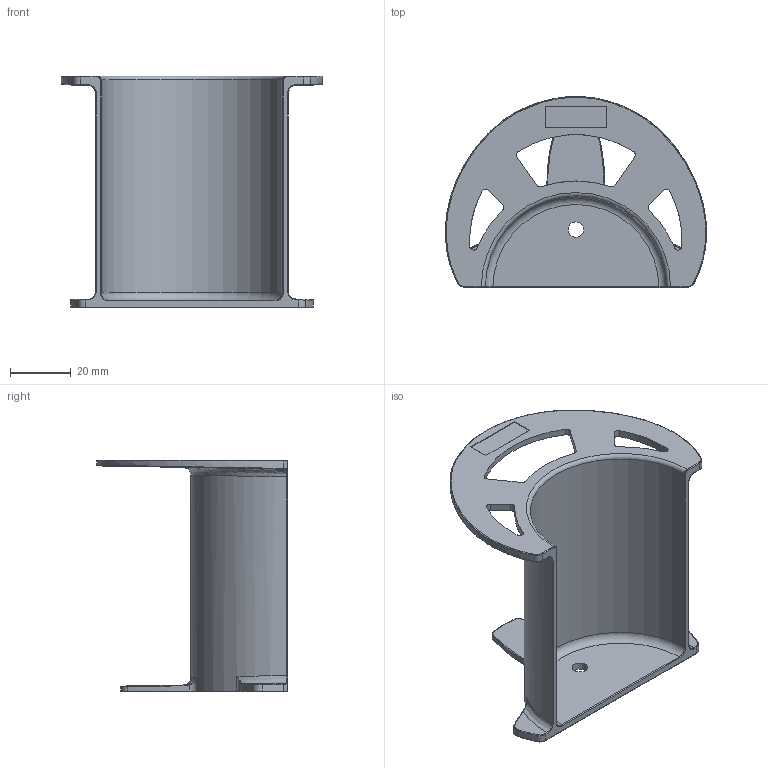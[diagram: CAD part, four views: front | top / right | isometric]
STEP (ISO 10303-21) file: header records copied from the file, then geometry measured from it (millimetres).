
FILE_DESCRIPTION((''),'2;1');
FILE_NAME('500-00629','2015-06-05T',('rrenderos'),('Middle Atlantic Products'),'PRO/ENGINEER BY PARAMETRIC TECHNOLOGY CORPORATION, 2014310','PRO/ENGINEER BY PARAMETRIC TECHNOLOGY CORPORATION, 2014310','');
FILE_SCHEMA(('CONFIG_CONTROL_DESIGN'));
Length unit declared in the file: inch
Products named in the file (1): 500-00629
Bounding box: 85.84 x 62.74 x 76.2 mm (x, y, z)
Volume: 24402.3 mm3; surface area: 24059.9 mm2
Topology: 1 solids, 1 shells, 138 faces, 331 edges, 196 vertices
Faces by surface type: cylinder 53, bspline 41, torus 25, plane 17, extrusion 2
Entity records: 6013 total; most frequent: CARTESIAN_POINT 3019, ORIENTED_EDGE 662, DIRECTION 565, EDGE_CURVE 331, AXIS2_PLACEMENT_3D 235, VERTEX_POINT 196, EDGE_LOOP 147, CIRCLE 140
